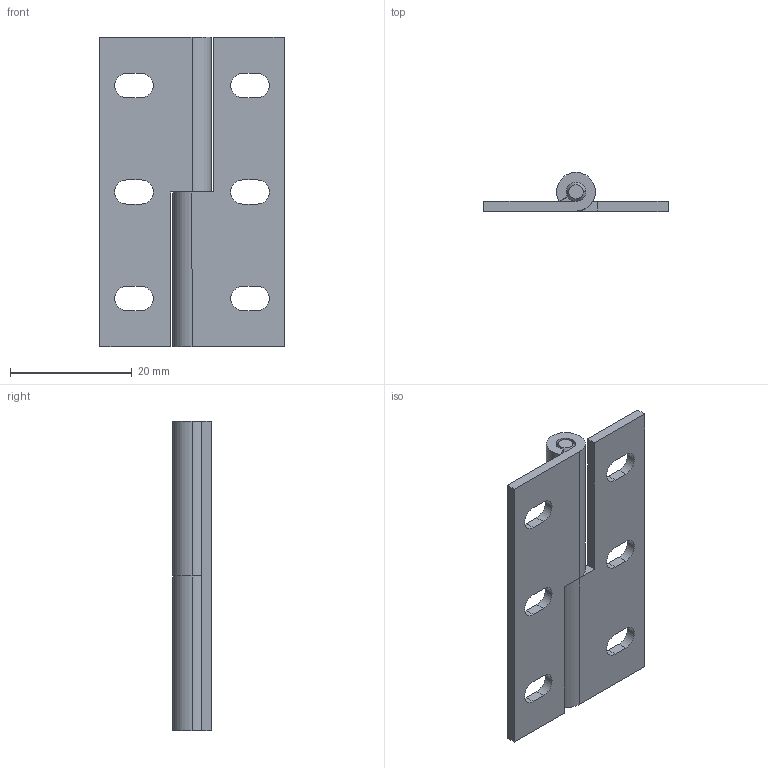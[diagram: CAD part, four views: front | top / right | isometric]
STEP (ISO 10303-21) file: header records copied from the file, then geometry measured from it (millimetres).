
FILE_DESCRIPTION(('STEP AP214'),'1');
FILE_NAME('C:/Users/HAN/Desktop/0019-0004-HNG L Rev 0_0.stp','2012-12-04T03:50:11',(' '),(' '),'Spatial InterOp 3D',' ',' ');
FILE_SCHEMA(('automotive_design'));
Length unit declared in the file: inch
Products named in the file (3): 0019-0004-BND Rev 0_0; 0019-0001-SHA Rev 0_0
Bounding box: 30.23 x 6.35 x 50.8 mm (x, y, z)
Volume: 3349.2 mm3; surface area: 4895.6 mm2
Topology: 3 solids, 3 shells, 77 faces, 208 edges, 134 vertices
Faces by surface type: cylinder 40, plane 31, cone 6
Entity records: 3102 total; most frequent: DIRECTION 450, CARTESIAN_POINT 418, ORIENTED_EDGE 408, EDGE_CURVE 204, AXIS2_PLACEMENT_3D 166, VERTEX_POINT 134, LINE 118, VECTOR 118
